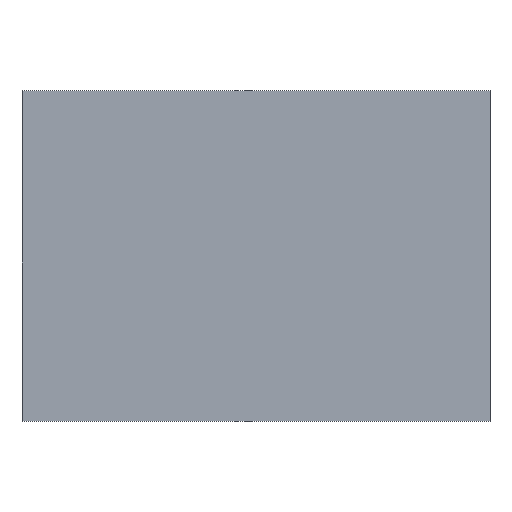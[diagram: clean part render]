
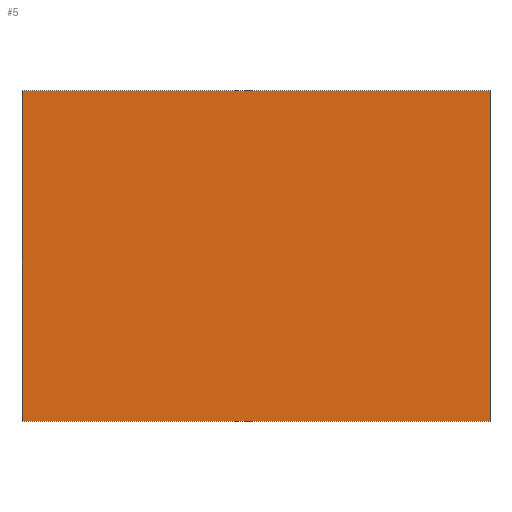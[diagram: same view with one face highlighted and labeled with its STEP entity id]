
A CAD part, top view. The second image highlights one B-rep face of the part: STEP entity #5.
In plain terms, the highlighted planar face has unit normal (0, 0, 1).
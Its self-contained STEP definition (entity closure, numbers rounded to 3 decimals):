
#5 = ADVANCED_FACE ( 'NONE', ( #147 ), #47, .F. ) ;
#13 = EDGE_CURVE ( 'NONE', #22, #17, #138, .T. ) ;
#17 = VERTEX_POINT ( 'NONE', #70 ) ;
#18 = VERTEX_POINT ( 'NONE', #36 ) ;
#19 = VERTEX_POINT ( 'NONE', #75 ) ;
#22 = VERTEX_POINT ( 'NONE', #76 ) ;
#32 = CARTESIAN_POINT ( 'NONE',  ( -304., 429., 6. ) ) ;
#35 = DIRECTION ( 'NONE',  ( 0., -1., 0. ) ) ;
#36 = CARTESIAN_POINT ( 'NONE',  ( -304., 0., 6. ) ) ;
#42 = CARTESIAN_POINT ( 'NONE',  ( 304., 0., 6. ) ) ;
#47 = PLANE ( 'NONE',  #122 ) ;
#62 = DIRECTION ( 'NONE',  ( 1., 0., 0. ) ) ;
#66 = CARTESIAN_POINT ( 'NONE',  ( -304., 0., 6. ) ) ;
#67 = CARTESIAN_POINT ( 'NONE',  ( -304., 0., 6. ) ) ;
#68 = DIRECTION ( 'NONE',  ( -1., 0., 0. ) ) ;
#70 = CARTESIAN_POINT ( 'NONE',  ( 304., 429., 6. ) ) ;
#72 = DIRECTION ( 'NONE',  ( 0., 0., -1. ) ) ;
#75 = CARTESIAN_POINT ( 'NONE',  ( -304., 429., 6. ) ) ;
#76 = CARTESIAN_POINT ( 'NONE',  ( 304., 0., 6. ) ) ;
#77 = DIRECTION ( 'NONE',  ( 0., 1., 0. ) ) ;
#78 = DIRECTION ( 'NONE',  ( 0., 1., 0. ) ) ;
#99 = CARTESIAN_POINT ( 'NONE',  ( -304., 429., 6. ) ) ;
#106 = EDGE_CURVE ( 'NONE', #17, #19, #189, .T. ) ;
#107 = EDGE_CURVE ( 'NONE', #19, #18, #156, .T. ) ;
#109 = EDGE_CURVE ( 'NONE', #18, #22, #185, .T. ) ;
#122 = AXIS2_PLACEMENT_3D ( 'NONE', #99, #72, #77 ) ;
#130 = ORIENTED_EDGE ( 'NONE', *, *, #13, .T. ) ;
#131 = ORIENTED_EDGE ( 'NONE', *, *, #106, .T. ) ;
#133 = ORIENTED_EDGE ( 'NONE', *, *, #109, .T. ) ;
#134 = ORIENTED_EDGE ( 'NONE', *, *, #107, .T. ) ;
#138 = LINE ( 'NONE', #42, #139 ) ;
#139 = VECTOR ( 'NONE', #78, 1000. ) ;
#146 = EDGE_LOOP ( 'NONE', ( #134, #133, #130, #131 ) ) ;
#147 = FACE_OUTER_BOUND ( 'NONE', #146, .T. ) ;
#156 = LINE ( 'NONE', #66, #173 ) ;
#173 = VECTOR ( 'NONE', #35, 1000. ) ;
#185 = LINE ( 'NONE', #67, #186 ) ;
#186 = VECTOR ( 'NONE', #62, 1000. ) ;
#189 = LINE ( 'NONE', #32, #190 ) ;
#190 = VECTOR ( 'NONE', #68, 1000. ) ;
